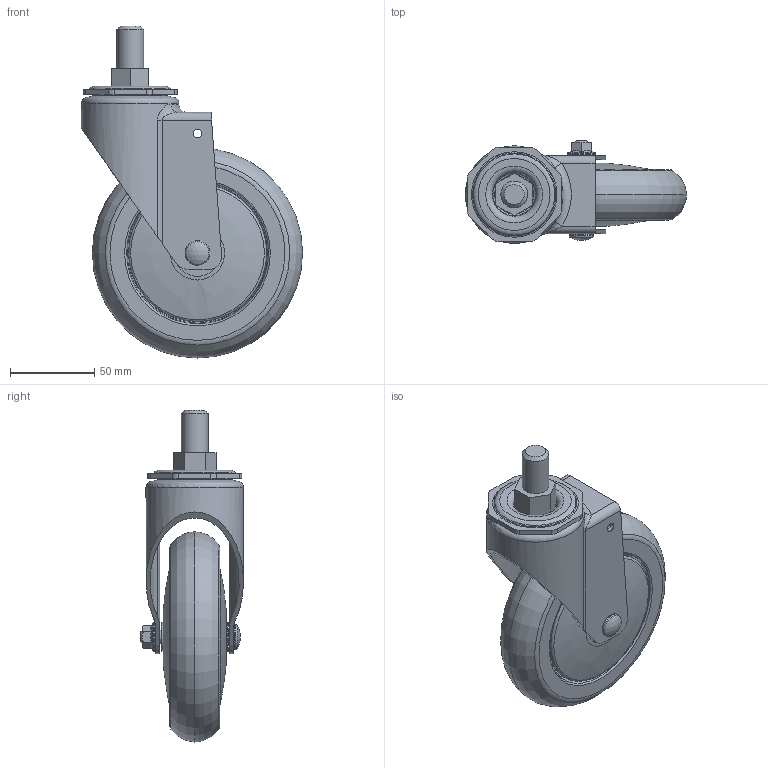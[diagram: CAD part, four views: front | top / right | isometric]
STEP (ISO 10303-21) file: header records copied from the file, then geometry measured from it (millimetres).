
FILE_DESCRIPTION(/* description */ (''),/* implementation_level */ '2;1');
FILE_NAME(/* name */ 'E:\홈피용도면\\X2\C2E0ADDCD648D398C774C9C0C6A9B3C4BA74\X0\\무소음캐스터\20160225-\X2\BB34C18CC74CCE90C2A4D130\X0\\PL-125-ASS.stp',/* time_stamp */ '2016-02-25T22:40:19+09:00',/* author */ ('장용하'),/* organization */ (''),/* preprocessor_version */ 'ST-DEVELOPER v15.6',/* originating_system */ 'Autodesk Inventor 2015',/* authorisation */ '');
FILE_SCHEMA (('AUTOMOTIVE_DESIGN { 1 0 10303 214 3 1 1 }'));
Length unit declared in the file: millimetre
Products named in the file (1): PL-125-ASS
Bounding box: 131.5 x 61.24 x 197.4 mm (x, y, z)
Volume: 334471.8 mm3; surface area: 108493.1 mm2
Topology: 1 solids, 1 shells, 387 faces, 887 edges, 545 vertices
Faces by surface type: plane 147, cylinder 114, torus 61, cone 50, bspline 14, sphere 1
Full cylindrical faces by diameter (mm): 5.2 x2, 8 x2, 12.5 x1, 14.6 x1, 15.875 x1, 17 x1, 22 x2, 24.667 x2, 32.333 x2, 34 x1, 36 x1, 41 x1, 53 x1, 58 x1
Entity records: 12254 total; most frequent: CARTESIAN_POINT 4040, DIRECTION 1756, ORIENTED_EDGE 1520, EDGE_CURVE 760, AXIS2_PLACEMENT_3D 736, EDGE_LOOP 553, VERTEX_POINT 533, FACE_OUTER_BOUND 387
